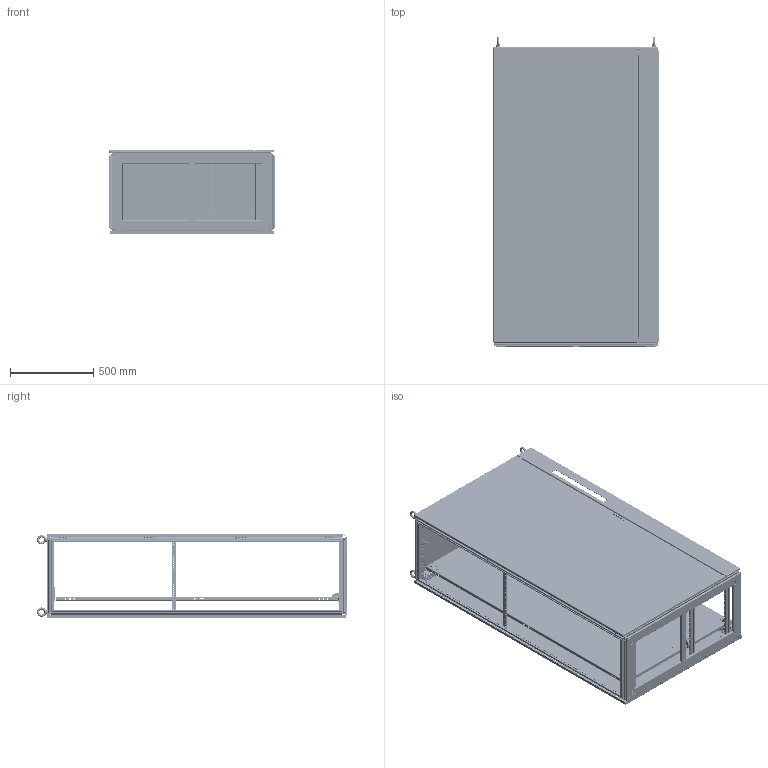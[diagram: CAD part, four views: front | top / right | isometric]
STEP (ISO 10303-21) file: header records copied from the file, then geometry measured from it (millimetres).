
FILE_DESCRIPTION((''),'2;1');
FILE_NAME('9951136_ASM','2015-03-11T',('us01724'),(''),'PRO/ENGINEER BY PARAMETRIC TECHNOLOGY CORPORATION, 2014310','PRO/ENGINEER BY PARAMETRIC TECHNOLOGY CORPORATION, 2014310','');
FILE_SCHEMA(('CONFIG_CONTROL_DESIGN'));
Products named in the file (58): D0242693_AF0; D0242693_AF1; D0242690_AF5; D0242690_AF4; D0242693; D0242690; D0242686; D0241135; TS_FRAME_1000WX1800HX500D_ASM; D0241538; D0241473; D0241151; D0208516; D0241463_TS_MPL_SLIDE_BLOCK_L; D0241464_TS_MPL_SLIDE_BLOCK_R; D0241469_TS_MPL_RETAINER_RIGHT; D0241468_TS_MPL_RETAINER_LEFT; D0271220; 211119; D0274958; D0043240; TS_GASKET_DOOR_FMDC_1800; D0242763_TS8_GROUND_STUD_M8; D0242763_TS8_CAP_M8; D0242763_ASM; D0207315; D0242679; D0041315; D0223916; D0043240_ASM; D0043307; TS_GASKET_DR_FMDC_LEFT_0918; D0233321; D0233330; D0214486; D0272091_ASM; D0241489; D0241496; D0042690; D0030693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
Assembly tree (139 placements, depth 4):
  9951136_ASM
    TS_FRAME_1000WX1800HX500D_ASM
      D0242693_AF0
      D0242693_AF1
      D0242690_AF5
      D0242690_AF4
      D0242693  x2
      D0242690  x2
      D0242686  x4
      D0241135  x8
    D0241538  x2
    D0241473  x2
    D0241151  x3
    D0208516  x2
    D0241463_TS_MPL_SLIDE_BLOCK_L
    D0241464_TS_MPL_SLIDE_BLOCK_R
    D0241469_TS_MPL_RETAINER_RIGHT
    D0241468_TS_MPL_RETAINER_LEFT
    D0271220
    211119
    D0274958  x8
    D0043240_ASM
      D0043240
      TS_GASKET_DOOR_FMDC_1800
      D0242763_ASM  x2
        D0242763_TS8_GROUND_STUD_M8
        D0242763_TS8_CAP_M8
      D0207315  x4
      D0242679  x3
      D0041315  x4
      D0223916
    D0043307_ASM
      D0043307
      TS_GASKET_DR_FMDC_LEFT_0918
      D0242763_ASM  x2
        D0242763_TS8_GROUND_STUD_M8
        D0242763_TS8_CAP_M8
      D0242679  x6
      D0207315  x4
      D0223916  x8
      D0272091_ASM
        D0233321  x2
        D0233330  x2
        D0214486  x4
      TS_LOCKBAR_ASSY_1800_DBL_ASM
        D0241489
        D0241496  x2
        D0042690  x2
        D0030693  x4
    D0290070_ASM
      D0275669
      TS_GASKET_ROOF_1005
      D0242763_ASM  x2
        D0242763_TS8_GROUND_STUD_M8
        D0242763_TS8_CAP_M8
    D0275871  x4
    D0275654_ASM
      TS_BASE_FRAME_MEM_500_NO_NOTCH  x2
      TS_BASE_FRAME_CORNER  x4
      TS_BASE_FRAME_MEM_1000  x2
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Bounding box: 997 x 1864.45 x 505.62 mm (x, y, z)
Volume: 18165585.7 mm3; surface area: 18633643.8 mm2
Topology: 153 solids, 161 shells, 20776 faces, 58233 edges, 37518 vertices
Faces by surface type: plane 12042, cylinder 7484, cone 412, torus 340, bspline 240, sphere 162, extrusion 96
Entity records: 302076 total; most frequent: CARTESIAN_POINT 57781, ORIENTED_EDGE 49994, DIRECTION 49858, EDGE_CURVE 25001, VECTOR 17298, LINE 17274, AXIS2_PLACEMENT_3D 16280, VERTEX_POINT 16183
